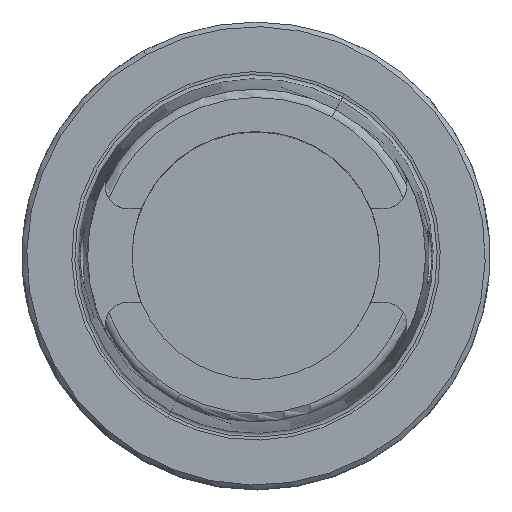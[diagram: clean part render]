
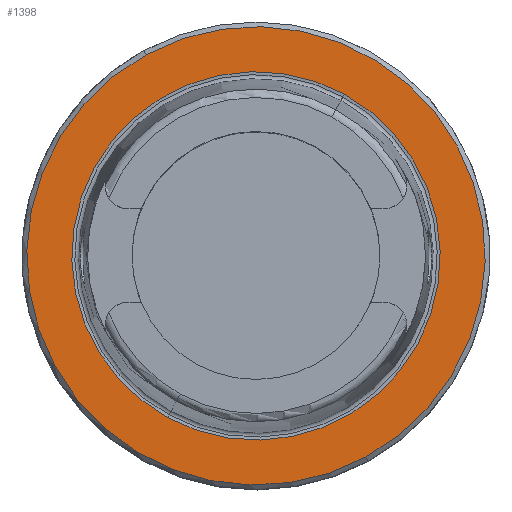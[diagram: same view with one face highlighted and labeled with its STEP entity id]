
A CAD part, top view. The second image highlights one B-rep face of the part: STEP entity #1398.
In plain terms, the highlighted planar face has unit normal (0, 0, 1).
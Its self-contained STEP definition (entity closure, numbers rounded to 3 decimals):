
#1335=AXIS2_PLACEMENT_3D('Circle Axis2P3D',#1333,#1334,$) ;
#1361=AXIS2_PLACEMENT_3D('Circle Axis2P3D',#1359,#1360,$) ;
#1374=AXIS2_PLACEMENT_3D('Plane Axis2P3D',#1371,#1372,#1373) ;
#1378=AXIS2_PLACEMENT_3D('Circle Axis2P3D',#1376,#1377,$) ;
#1387=AXIS2_PLACEMENT_3D('Circle Axis2P3D',#1385,#1386,$) ;
#1333=CARTESIAN_POINT('Axis2P3D Location',(0.,0.,0.)) ;
#1337=CARTESIAN_POINT('Vertex',(18.88,34.56,0.)) ;
#1339=CARTESIAN_POINT('Vertex',(-18.88,-34.56,0.)) ;
#1359=CARTESIAN_POINT('Axis2P3D Location',(0.,0.,0.)) ;
#1371=CARTESIAN_POINT('Axis2P3D Location',(0.,-38.285,0.)) ;
#1376=CARTESIAN_POINT('Axis2P3D Location',(0.,0.,0.)) ;
#1380=CARTESIAN_POINT('Vertex',(23.492,-43.002,0.)) ;
#1382=CARTESIAN_POINT('Vertex',(-23.492,43.002,0.)) ;
#1385=CARTESIAN_POINT('Axis2P3D Location',(0.,0.,0.)) ;
#1334=DIRECTION('Axis2P3D Direction',(0.,0.,1.)) ;
#1360=DIRECTION('Axis2P3D Direction',(0.,0.,1.)) ;
#1372=DIRECTION('Axis2P3D Direction',(0.,0.,-1.)) ;
#1373=DIRECTION('Axis2P3D XDirection',(-1.,0.,0.)) ;
#1377=DIRECTION('Axis2P3D Direction',(0.,0.,-1.)) ;
#1386=DIRECTION('Axis2P3D Direction',(0.,0.,-1.)) ;
#1391=ORIENTED_EDGE('',*,*,#1384,.F.) ;
#1392=ORIENTED_EDGE('',*,*,#1389,.F.) ;
#1395=ORIENTED_EDGE('',*,*,#1341,.T.) ;
#1396=ORIENTED_EDGE('',*,*,#1363,.T.) ;
#1397=FACE_BOUND('',#1394,.T.) ;
#1398=ADVANCED_FACE('NOCUT',(#1393,#1397),#1375,.F.) ;
#1336=CIRCLE('generated circle',#1335,39.381) ;
#1362=CIRCLE('generated circle',#1361,39.381) ;
#1379=CIRCLE('generated circle',#1378,49.) ;
#1388=CIRCLE('generated circle',#1387,49.) ;
#1341=EDGE_CURVE('',#1338,#1340,#1336,.F.) ;
#1363=EDGE_CURVE('',#1340,#1338,#1362,.F.) ;
#1384=EDGE_CURVE('',#1381,#1383,#1379,.T.) ;
#1389=EDGE_CURVE('',#1383,#1381,#1388,.T.) ;
#1390=EDGE_LOOP('',(#1391,#1392)) ;
#1394=EDGE_LOOP('',(#1395,#1396)) ;
#1393=FACE_OUTER_BOUND('',#1390,.T.) ;
#1375=PLANE('',#1374) ;
#1338=VERTEX_POINT('',#1337) ;
#1340=VERTEX_POINT('',#1339) ;
#1381=VERTEX_POINT('',#1380) ;
#1383=VERTEX_POINT('',#1382) ;
